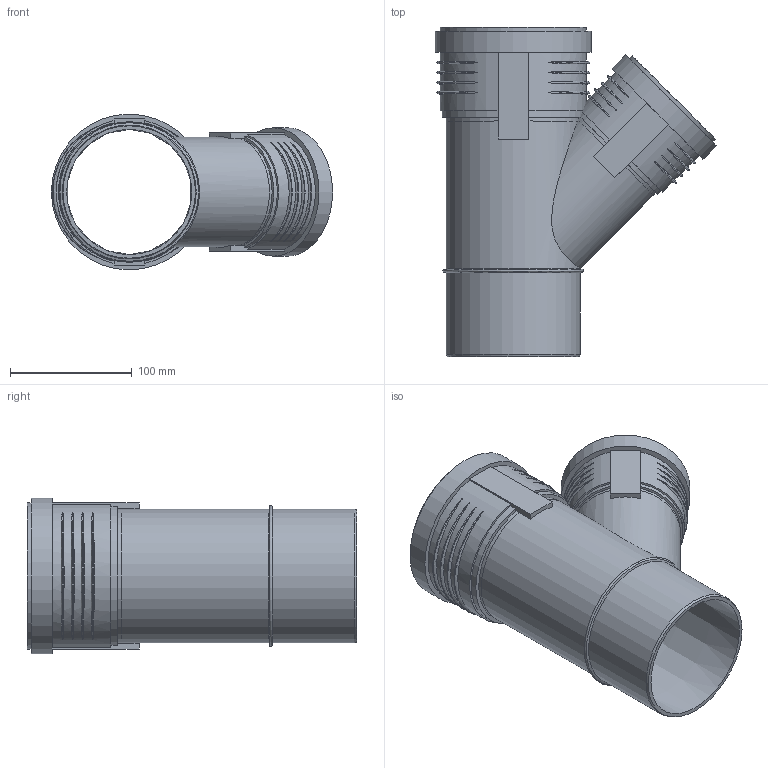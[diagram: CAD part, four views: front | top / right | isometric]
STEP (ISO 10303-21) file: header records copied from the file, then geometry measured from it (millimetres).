
FILE_DESCRIPTION(/* description */ (''),/* implementation_level */ '2;1');
FILE_NAME(/* name */ 'Z:\Geberit\Export\NewStep\390534.stp',/* time_stamp */ '2014-04-02T08:14:25+02:00',/* author */ ('ML'),/* organization */ (''),/* preprocessor_version */ 'ST-DEVELOPER v15.2',/* originating_system */ 'Autodesk Inventor 2014',/* authorisation */ '');
FILE_SCHEMA (('AUTOMOTIVE_DESIGN { 1 0 10303 214 3 1 1 }'));
Length unit declared in the file: millimetre
Products named in the file (4): 861348; 861403; 861404; 390534
Bounding box: 231.38 x 271.1 x 128.1 mm (x, y, z)
Volume: 462106.1 mm3; surface area: 279390.2 mm2
Topology: 3 solids, 3 shells, 127 faces, 310 edges, 215 vertices
Faces by surface type: torus 50, plane 37, cylinder 31, cone 9
Full cylindrical faces by diameter (mm): 84 x1, 84.2 x1, 90.2 x1, 91.2 x2, 97.2 x1, 99.8 x1, 103.2 x1, 105.8 x1, 110.2 x3, 113.3 x2, 120.3 x1, 121.1 x1, 128.1 x1
Entity records: 5273 total; most frequent: CARTESIAN_POINT 2294, ORIENTED_EDGE 550, DIRECTION 544, EDGE_CURVE 275, AXIS2_PLACEMENT_3D 236, VERTEX_POINT 207, EDGE_LOOP 188, ADVANCED_FACE 127
